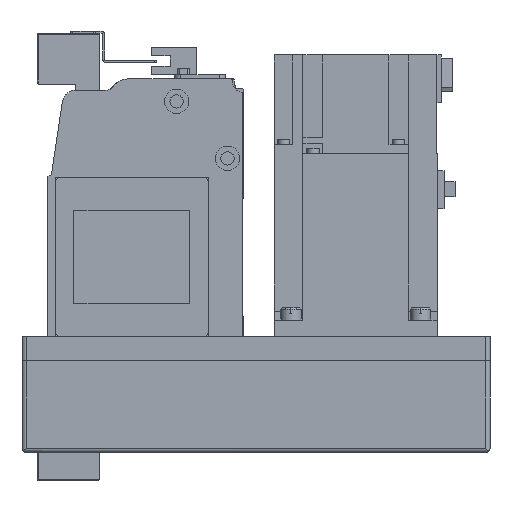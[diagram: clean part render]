
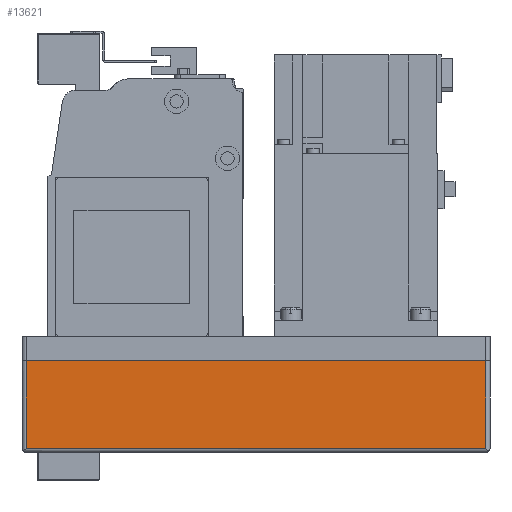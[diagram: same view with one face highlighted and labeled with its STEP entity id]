
A CAD part, left-side view. The second image highlights one B-rep face of the part: STEP entity #13621.
In plain terms, the highlighted planar face has unit normal (-1, 0, 0) as drawn and (0, 1, 0) by its records, which use the part's own axes.
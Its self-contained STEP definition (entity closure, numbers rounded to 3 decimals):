
#2462=ORIENTED_EDGE('',*,*,#5670,.F.);
#2463=ORIENTED_EDGE('',*,*,#5610,.T.);
#2464=ORIENTED_EDGE('',*,*,#5671,.F.);
#2465=ORIENTED_EDGE('',*,*,#5605,.F.);
#5605=EDGE_CURVE('',#7358,#7359,#8786,.T.);
#5610=EDGE_CURVE('',#7364,#7363,#8788,.T.);
#5670=EDGE_CURVE('',#7364,#7358,#8831,.T.);
#5671=EDGE_CURVE('',#7359,#7363,#8832,.T.);
#7358=VERTEX_POINT('',#21286);
#7359=VERTEX_POINT('',#21288);
#7363=VERTEX_POINT('',#21297);
#7364=VERTEX_POINT('',#21299);
#8786=LINE('',#21287,#10099);
#8788=LINE('',#21298,#10101);
#8831=LINE('',#21421,#10144);
#8832=LINE('',#21422,#10145);
#10099=VECTOR('',#17019,1000.);
#10101=VECTOR('',#17029,1000.);
#10144=VECTOR('',#17150,1000.);
#10145=VECTOR('',#17151,1000.);
#11252=EDGE_LOOP('',(#2462,#2463,#2464,#2465));
#12231=FACE_BOUND('',#11252,.T.);
#13042=PLANE('',#14630);
#13621=ADVANCED_FACE('',(#12231),#13042,.T.);
#14630=AXIS2_PLACEMENT_3D('',#21420,#17148,#17149);
#17019=DIRECTION('',(0.,0.,1.));
#17029=DIRECTION('',(0.,0.,1.));
#17148=DIRECTION('',(0.,1.,0.));
#17149=DIRECTION('',(0.,0.,1.));
#17150=DIRECTION('',(1.,0.,0.));
#17151=DIRECTION('',(-1.,0.,0.));
#21286=CARTESIAN_POINT('',(-2.,54.,-55.));
#21287=CARTESIAN_POINT('',(-2.,54.,-57.));
#21288=CARTESIAN_POINT('',(-2.,54.,-12.));
#21297=CARTESIAN_POINT('',(-228.,54.,-12.));
#21298=CARTESIAN_POINT('',(-228.,54.,-57.));
#21299=CARTESIAN_POINT('',(-228.,54.,-55.));
#21420=CARTESIAN_POINT('',(-2.,54.,-57.));
#21421=CARTESIAN_POINT('',(-230.,54.,-55.));
#21422=CARTESIAN_POINT('',(-2.,54.,-12.));
